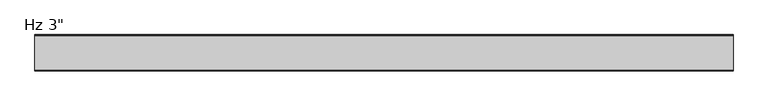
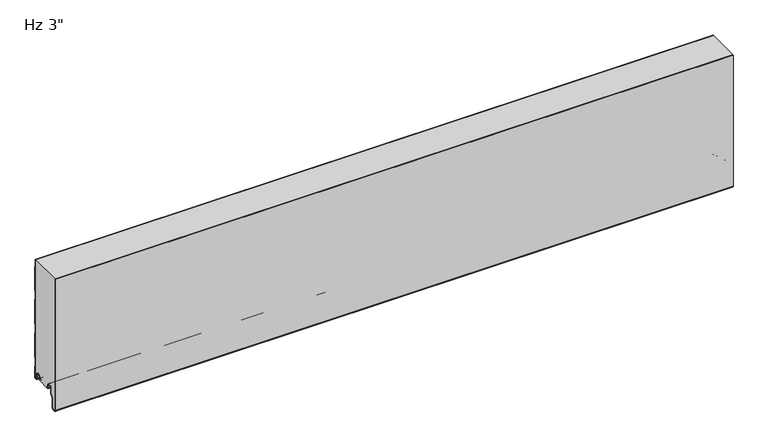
"""IFC4 building model written with IfcOpenShell, lengths in millimetres: plate geometry."""

from ifc_helpers import new_model, si_unit, point, frame, frame_2d, origin, place, context, project, spatial, polyline, circle_curve, trimmed, segment, composite_curve, outline, extrude, source, transform, mapped, element, save
from ifc_brep_helpers import plane_surface, cylinder_surface, revolved_surface, advanced_brep


def plate_f3079791(model_context):
    return source(origin(), model_context, "Body", "SolidModel", [
        advanced_brep(
        [(-730.0, -17.0015159, 2.0313088), (-730.0, -18.0015191, 1.0313116), (-730.0, -19.0015105, 2.0313088), (-730.0, -19.0015105, 6.0315125), (-730.0, -18.0015159, 6.0315125), (-730.0, -18.0015159, 8.7237223), (-730.0, -14.7015202, 12.023718), (-730.0, -10.301529, 12.023718), (-730.0, -7.0015335, 8.7237225), (-730.0, -7.0015335, -1.6962564), (-730.0, -5.2315393, -3.4662506), (-730.0, -0.9999916, -3.4662506), (-730.0, -0.9999916, 21.034026), (-730.0, -2.2002307, 22.4196686), (-730.0, -2.2002307, 41.7948349), (-730.0, -1.0, 43.1804679), (-730.0, -1.0, 97.2338833), (-730.0, -2.2002307, 98.6195162), (-730.0, -2.2002307, 117.9946825), (-730.0, -1.0, 119.3803155), (-730.0, -1.0, 173.4337309), (-730.0, -2.2002307, 174.8193638), (-730.0, -2.2002307, 194.1945301), (-730.0, -1.0, 195.5801631), (-730.0, -1.0, 249.6335785), (-730.0, -2.2002307, 251.0192114), (-730.0, -2.2002307, 266.4), (-730.0, -1.2002307, 266.4), (-730.0, -1.2002307, 251.3920919), (-730.0, -0.3417885, 250.4010442), (-730.0, 0.0, 249.4844273), (-730.0, 0.0, 195.7293142), (-730.0, -0.3417885, 194.8126973), (-730.0, -1.2002307, 193.8216497), (-730.0, -1.2002307, 175.1922443), (-730.0, -0.3417885, 174.2011966), (-730.0, 0.0, 173.2845797), (-730.0, 0.0, 119.5294666), (-730.0, -0.3417885, 118.6128497), (-730.0, -1.2002307, 117.6218021), (-730.0, -1.2002307, 98.9923967), (-730.0, -0.3417885, 98.001349), (-730.0, 0.0, 97.0847321), (-730.0, 0.0, 43.329619), (-730.0, -0.3417885, 42.4130021), (-730.0, -1.2002307, 41.4219545), (-730.0, -1.2002307, 22.7925491), (-730.0, -0.3417885, 21.8015014), (-730.0, 0.0, 20.8847931), (-730.0, 8.4e-06, -3.0662545), (-730.0, -1.3999878, -4.4662506), (-730.0, -5.2315393, -4.4662506), (-730.0, -8.0015335, -1.6962564), (-730.0, -8.0015335, 8.7237225), (-730.0, -10.301529, 11.023718), (-730.0, -14.7015202, 11.023718), (-730.0, -17.0015159, 8.7237223), (730.0, -17.0015159, 2.0313088), (730.0, -17.0015159, 8.7237223), (730.0, -14.7015202, 11.023718), (730.0, -10.301529, 11.023718), (730.0, -8.0015335, 8.7237225), (730.0, -8.0015335, -1.6962564), (730.0, -5.2315393, -4.4662506), (730.0, -1.3999878, -4.4662506), (730.0, 8.4e-06, -3.0662545), (730.0, 8.4e-06, 20.8848845), (730.0, -0.3417885, 21.8015014), (730.0, -1.2002307, 22.7925491), (730.0, -1.2002307, 41.4219545), (730.0, -0.3417885, 42.4130021), (730.0, 0.0, 43.329619), (730.0, 0.0, 97.0847321), (730.0, -0.3417885, 98.001349), (730.0, -1.2002307, 98.9923967), (730.0, -1.2002307, 117.6218021), (730.0, -0.3417885, 118.6128497), (730.0, 0.0, 119.5294666), (730.0, 0.0, 173.2845797), (730.0, -0.3417885, 174.2011966), (730.0, -1.2002307, 175.1922443), (730.0, -1.2002307, 193.8216497), (730.0, -0.3417885, 194.8126973), (730.0, 0.0, 195.7293142), (730.0, 0.0, 249.4844273), (730.0, -0.3417885, 250.4010442), (730.0, -1.2002307, 251.3920919), (730.0, -1.2002307, 266.4), (730.0, -2.2002307, 266.4), (730.0, -2.2002307, 251.0192114), (730.0, -1.0, 249.6335785), (730.0, -1.0, 195.5801631), (730.0, -2.2002307, 194.1945301), (730.0, -2.2002307, 174.8193638), (730.0, -1.0, 173.4337309), (730.0, -1.0, 119.3803155), (730.0, -2.2002307, 117.9946825), (730.0, -2.2002307, 98.6195162), (730.0, -1.0, 97.2338833), (730.0, -1.0, 43.1804679), (730.0, -2.2002307, 41.7948349), (730.0, -2.2002307, 22.4196686), (730.0, -0.9999916, 21.034026), (730.0, -0.9999916, -3.4662506), (730.0, -5.2315393, -3.4662506), (730.0, -7.0015335, -1.6962564), (730.0, -7.0015335, 8.7237225), (730.0, -10.301529, 12.023718), (730.0, -14.7015202, 12.023718), (730.0, -18.0015159, 8.7237223), (730.0, -18.0015159, 6.0315125), (730.0, -19.0015105, 6.0315125), (730.0, -19.0015105, 2.0313088), (730.0, -18.0015192, 1.0313116)],
        [
            (0, 1, circle_curve(frame((-730.0, -18.0015132, 2.0313088), z_axis=(-1.0, 0.0, 0.0), x_axis=(0.0, 0.0, 1.0)), 0.9999973)),
            (1, 2, circle_curve(frame((-730.0, -18.0015133, 2.0313088), z_axis=(-1.0, 0.0, 0.0), x_axis=(0.0, 0.0, 1.0)), 0.9999972)),
            (2, 3),
            (3, 4),
            (4, 5),
            (5, 6, circle_curve(frame((-730.0, -14.7015202, 8.7237223), z_axis=(-1.0, 0.0, 0.0), x_axis=(0.0, 0.0, 1.0)), 3.2999957)),
            (6, 7),
            (7, 8, circle_curve(frame((-730.0, -10.301529, 8.7237225), z_axis=(-1.0, 0.0, 0.0), x_axis=(0.0, 0.0, 1.0)), 3.2999955)),
            (8, 9),
            (9, 10, circle_curve(frame((-730.0, -5.2315393, -1.6962564), z_axis=(1.0, 0.0, 0.0), x_axis=(0.0, 0.0, 1.0)), 1.7699942)),
            (10, 11),
            (11, 12),
            (12, 13),
            (13, 14),
            (14, 15),
            (15, 16),
            (16, 17),
            (17, 18),
            (18, 19),
            (19, 20),
            (20, 21),
            (21, 22),
            (22, 23),
            (23, 24),
            (24, 25),
            (25, 26),
            (26, 27),
            (27, 28),
            (28, 29),
            (29, 30, circle_curve(frame((-730.0, -1.3999972, 249.4844273), z_axis=(-1.0, 0.0, 0.0), x_axis=(0.0, 0.0, 1.0)), 1.3999972)),
            (30, 31),
            (31, 32, circle_curve(frame((-730.0, -1.3999972, 195.7293142), z_axis=(-1.0, 0.0, 0.0), x_axis=(0.0, 0.0, 1.0)), 1.3999972)),
            (32, 33),
            (33, 34),
            (34, 35),
            (35, 36, circle_curve(frame((-730.0, -1.3999972, 173.2845797), z_axis=(-1.0, 0.0, 0.0), x_axis=(0.0, 0.0, 1.0)), 1.3999972)),
            (36, 37),
            (37, 38, circle_curve(frame((-730.0, -1.3999972, 119.5294666), z_axis=(-1.0, 0.0, 0.0), x_axis=(0.0, 0.0, 1.0)), 1.3999972)),
            (38, 39),
            (39, 40),
            (40, 41),
            (41, 42, circle_curve(frame((-730.0, -1.3999972, 97.0847321), z_axis=(-1.0, 0.0, 0.0), x_axis=(0.0, 0.0, 1.0)), 1.3999972)),
            (42, 43),
            (43, 44, circle_curve(frame((-730.0, -1.3999972, 43.329619), z_axis=(-1.0, 0.0, 0.0), x_axis=(0.0, 0.0, 1.0)), 1.3999972)),
            (44, 45),
            (45, 46),
            (46, 47),
            (47, 48, circle_curve(frame((-730.0, -1.3999972, 20.8848845), z_axis=(-1.0, 0.0, 0.0), x_axis=(0.0, 0.0, 1.0)), 1.3999972)),
            (48, 49),
            (49, 50, circle_curve(frame((-730.0, -1.3999878, -3.0662545), z_axis=(-1.0, 0.0, 0.0), x_axis=(0.0, 0.0, 1.0)), 1.3999962)),
            (50, 51),
            (51, 52, circle_curve(frame((-730.0, -5.2315393, -1.6962564), z_axis=(-1.0, 0.0, 0.0), x_axis=(0.0, 0.0, 1.0)), 2.7699942)),
            (52, 53),
            (53, 54, circle_curve(frame((-730.0, -10.301529, 8.7237225), z_axis=(1.0, 0.0, 0.0), x_axis=(0.0, 0.0, 1.0)), 2.2999955)),
            (54, 55),
            (55, 56, circle_curve(frame((-730.0, -14.7015202, 8.7237223), z_axis=(1.0, 0.0, 0.0), x_axis=(0.0, 0.0, 1.0)), 2.2999957)),
            (56, 0),
            (57, 58),
            (58, 59, circle_curve(frame((730.0, -14.7015202, 8.7237223), z_axis=(-1.0, 0.0, 0.0), x_axis=(0.0, 0.0, 1.0)), 2.2999957)),
            (59, 60),
            (60, 61, circle_curve(frame((730.0, -10.301529, 8.7237225), z_axis=(-1.0, 0.0, 0.0), x_axis=(0.0, 0.0, 1.0)), 2.2999955)),
            (61, 62),
            (62, 63, circle_curve(frame((730.0, -5.2315393, -1.6962564), z_axis=(1.0, 0.0, 0.0), x_axis=(0.0, 0.0, 1.0)), 2.7699942)),
            (63, 64),
            (64, 65, circle_curve(frame((730.0, -1.3999878, -3.0662545), z_axis=(1.0, 0.0, 0.0), x_axis=(0.0, 0.0, 1.0)), 1.3999962)),
            (65, 66),
            (66, 67, circle_curve(frame((730.0, -1.3999972, 20.8848845), z_axis=(1.0, 0.0, 0.0), x_axis=(0.0, 0.0, 1.0)), 1.3999972)),
            (67, 68),
            (68, 69),
            (69, 70),
            (70, 71, circle_curve(frame((730.0, -1.3999972, 43.329619), z_axis=(1.0, 0.0, 0.0), x_axis=(0.0, 0.0, 1.0)), 1.3999972)),
            (71, 72),
            (72, 73, circle_curve(frame((730.0, -1.3999972, 97.0847321), z_axis=(1.0, 0.0, 0.0), x_axis=(0.0, 0.0, 1.0)), 1.3999972)),
            (73, 74),
            (74, 75),
            (75, 76),
            (76, 77, circle_curve(frame((730.0, -1.3999972, 119.5294666), z_axis=(1.0, 0.0, 0.0), x_axis=(0.0, 0.0, 1.0)), 1.3999972)),
            (77, 78),
            (78, 79, circle_curve(frame((730.0, -1.3999972, 173.2845797), z_axis=(1.0, 0.0, 0.0), x_axis=(0.0, 0.0, 1.0)), 1.3999972)),
            (79, 80),
            (80, 81),
            (81, 82),
            (82, 83, circle_curve(frame((730.0, -1.3999972, 195.7293142), z_axis=(1.0, 0.0, 0.0), x_axis=(0.0, 0.0, 1.0)), 1.3999972)),
            (83, 84),
            (84, 85, circle_curve(frame((730.0, -1.3999972, 249.4844273), z_axis=(1.0, 0.0, 0.0), x_axis=(0.0, 0.0, 1.0)), 1.3999972)),
            (85, 86),
            (86, 87),
            (87, 88),
            (88, 89),
            (89, 90),
            (90, 91),
            (91, 92),
            (92, 93),
            (93, 94),
            (94, 95),
            (95, 96),
            (96, 97),
            (97, 98),
            (98, 99),
            (99, 100),
            (100, 101),
            (101, 102),
            (102, 103),
            (103, 104),
            (104, 105, circle_curve(frame((730.0, -5.2315393, -1.6962564), z_axis=(-1.0, 0.0, 0.0), x_axis=(0.0, 0.0, 1.0)), 1.7699942)),
            (105, 106),
            (106, 107, circle_curve(frame((730.0, -10.301529, 8.7237225), z_axis=(1.0, 0.0, 0.0), x_axis=(0.0, 0.0, 1.0)), 3.2999955)),
            (107, 108),
            (108, 109, circle_curve(frame((730.0, -14.7015202, 8.7237223), z_axis=(1.0, 0.0, 0.0), x_axis=(0.0, 0.0, 1.0)), 3.2999957)),
            (109, 110),
            (110, 111),
            (111, 112),
            (112, 113, circle_curve(frame((730.0, -18.0015133, 2.0313088), z_axis=(1.0, 0.0, 0.0), x_axis=(0.0, 0.0, 1.0)), 0.9999972)),
            (113, 57, circle_curve(frame((730.0, -18.0015132, 2.0313088), z_axis=(1.0, 0.0, 0.0), x_axis=(0.0, 0.0, 1.0)), 0.9999973)),
            (26, 88),
            (87, 27),
            (56, 58),
            (57, 0),
            (55, 59),
            (54, 60),
            (53, 61),
            (52, 62),
            (51, 63),
            (50, 64),
            (49, 65),
            (48, 66),
            (47, 67),
            (46, 68),
            (45, 69),
            (44, 70),
            (43, 71),
            (42, 72),
            (41, 73),
            (40, 74),
            (39, 75),
            (38, 76),
            (37, 77),
            (36, 78),
            (19, 95),
            (94, 20),
            (18, 96),
            (17, 97),
            (16, 98),
            (15, 99),
            (14, 100),
            (13, 101),
            (12, 102),
            (11, 103),
            (10, 104),
            (9, 105),
            (8, 106),
            (7, 107),
            (6, 108),
            (5, 109),
            (4, 110),
            (3, 111),
            (2, 112),
            (1, 113),
            (35, 79),
            (34, 80),
            (33, 81),
            (32, 82),
            (31, 83),
            (30, 84),
            (29, 85),
            (28, 86),
            (25, 89),
            (24, 90),
            (23, 91),
            (22, 92),
            (21, 93),
        ],
        [
            plane_surface(frame((-730.0, 0.0, 533.4), z_axis=(-1.0, 0.0, 0.0), x_axis=(0.0, 1.0, 0.0))),
            plane_surface(frame((730.0, 0.0, 533.4), z_axis=(1.0, 0.0, 0.0), x_axis=(0.0, 1.0, 0.0))),
            plane_surface(frame((730.0, 10.0, 266.4), z_axis=(0.0, 0.0, 1.0), x_axis=(-1.0, 0.0, 0.0))),
            plane_surface(frame((-730.0, -17.0015159, 2.0313088), z_axis=(0.0, 1.0, 0.0), x_axis=(1.0, 0.0, 0.0))),
            revolved_surface(polyline([(730.0, -14.7015202, 11.023718), (-730.0, -14.7015202, 11.023718)]), (-730.0, -14.7015202, 8.7237223), (1.0, 0.0, 0.0)),
            plane_surface(frame((-730.0, -14.7015202, 11.023718), z_axis=(0.0, 0.0, -1.0), x_axis=(1.0, 0.0, 0.0))),
            revolved_surface(polyline([(730.0, -10.301529, 11.023717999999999), (-730.0, -10.301529, 11.023717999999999)]), (-730.0, -10.301529, 8.7237225), (1.0, 0.0, 0.0)),
            plane_surface(frame((-730.0, -8.0015335, 8.7237225), z_axis=(0.0, -1.0, 0.0), x_axis=(1.0, 0.0, 0.0))),
            cylinder_surface(frame((-730.0, -5.2315393, -1.6962564), z_axis=(-1.0, 0.0, 0.0), x_axis=(0.0, 0.0, 1.0)), 2.7699942),
            plane_surface(frame((-730.0, -5.2315393, -4.4662506), z_axis=(0.0, 0.0, -1.0), x_axis=(1.0, 0.0, 0.0))),
            cylinder_surface(frame((-730.0, -1.3999878, -3.0662545), z_axis=(-1.0, 0.0, 0.0), x_axis=(0.0, 0.0, 1.0)), 1.3999962),
            plane_surface(frame((-730.0, 8.4e-06, -3.0662545), z_axis=(0.0, 1.0, 0.0), x_axis=(1.0, 0.0, 0.0))),
            cylinder_surface(frame((-730.0, -1.3999972, 20.8848845), z_axis=(-1.0, 0.0, 0.0), x_axis=(0.0, 0.0, 1.0)), 1.3999972),
            plane_surface(frame((-730.0, -0.3417885, 21.8015014), z_axis=(0.0, 0.755864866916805, 0.6547276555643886), x_axis=(1.0, 0.0, 0.0))),
            plane_surface(frame((-730.0, -1.2002307, 32.1072518), z_axis=(0.0, 1.0, 0.0), x_axis=(1.0, 0.0, 0.0))),
            plane_surface(frame((-730.0, -1.2002307, 41.4219545), z_axis=(0.0, 0.755864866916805, -0.6547276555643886), x_axis=(1.0, 0.0, 0.0))),
            cylinder_surface(frame((-730.0, -1.3999972, 43.329619), z_axis=(-1.0, 0.0, 0.0), x_axis=(0.0, 0.0, 1.0)), 1.3999972),
            plane_surface(frame((-730.0, 0.0, 43.329619), z_axis=(0.0, 1.0, 0.0), x_axis=(1.0, 0.0, 0.0))),
            cylinder_surface(frame((-730.0, -1.3999972, 97.0847321), z_axis=(-1.0, 0.0, 0.0), x_axis=(0.0, 0.0, 1.0)), 1.3999972),
            plane_surface(frame((-730.0, -0.3417885, 98.001349), z_axis=(0.0, 0.755864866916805, 0.6547276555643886), x_axis=(1.0, 0.0, 0.0))),
            plane_surface(frame((-730.0, -1.2002307, 108.3070994), z_axis=(0.0, 1.0, 0.0), x_axis=(1.0, 0.0, 0.0))),
            plane_surface(frame((-730.0, -1.2002307, 117.6218021), z_axis=(0.0, 0.755864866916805, -0.6547276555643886), x_axis=(1.0, 0.0, 0.0))),
            cylinder_surface(frame((-730.0, -1.3999972, 119.5294666), z_axis=(-1.0, 0.0, 0.0), x_axis=(0.0, 0.0, 1.0)), 1.3999972),
            plane_surface(frame((-730.0, 0.0, 119.5294666), z_axis=(0.0, 1.0, 0.0), x_axis=(1.0, 0.0, 0.0))),
            plane_surface(frame((-730.0, -1.0, 173.4337309), z_axis=(0.0, -1.0, 0.0), x_axis=(1.0, 0.0, 0.0))),
            plane_surface(frame((-730.0, -1.0, 119.3803155), z_axis=(0.0, -0.755864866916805, 0.6547276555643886), x_axis=(1.0, 0.0, 0.0))),
            plane_surface(frame((-730.0, -2.2002307, 117.9946825), z_axis=(0.0, -1.0, 0.0), x_axis=(1.0, 0.0, 0.0))),
            plane_surface(frame((-730.0, -2.2002307, 98.6195162), z_axis=(0.0, -0.755864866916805, -0.6547276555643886), x_axis=(1.0, 0.0, 0.0))),
            plane_surface(frame((-730.0, -1.0, 97.2338833), z_axis=(0.0, -1.0, 0.0), x_axis=(1.0, 0.0, 0.0))),
            plane_surface(frame((-730.0, -1.0, 43.1804679), z_axis=(0.0, -0.755864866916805, 0.6547276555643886), x_axis=(1.0, 0.0, 0.0))),
            plane_surface(frame((-730.0, -2.2002307, 41.7948349), z_axis=(0.0, -1.0, 0.0), x_axis=(1.0, 0.0, 0.0))),
            plane_surface(frame((-730.0, -2.2002307, 22.4196686), z_axis=(0.0, -0.755864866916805, -0.6547276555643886), x_axis=(1.0, 0.0, 0.0))),
            plane_surface(frame((-730.0, -0.9999916, 21.034026), z_axis=(0.0, -1.0, 0.0), x_axis=(1.0, 0.0, 0.0))),
            plane_surface(frame((-730.0, -0.9999916, -3.4662506), z_axis=(0.0, 0.0, 1.0), x_axis=(1.0, 0.0, 0.0))),
            revolved_surface(polyline([(730.0, -5.2315393, 0.07373779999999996), (-730.0, -5.2315393, 0.07373779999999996)]), (-730.0, -5.2315393, -1.6962564), (1.0, 0.0, 0.0)),
            plane_surface(frame((-730.0, -7.0015335, -1.6962564), z_axis=(0.0, 1.0, 0.0), x_axis=(1.0, 0.0, 0.0))),
            cylinder_surface(frame((-730.0, -10.301529, 8.7237225), z_axis=(-1.0, 0.0, 0.0), x_axis=(0.0, 0.0, 1.0)), 3.2999955),
            plane_surface(frame((-730.0, -10.301529, 12.023718), z_axis=(0.0, 0.0, 1.0), x_axis=(1.0, 0.0, 0.0))),
            cylinder_surface(frame((-730.0, -14.7015202, 8.7237223), z_axis=(-1.0, 0.0, 0.0), x_axis=(0.0, 0.0, 1.0)), 3.2999957),
            plane_surface(frame((-730.0, -18.0015159, 8.7237223), z_axis=(0.0, -1.0, 0.0), x_axis=(1.0, 0.0, 0.0))),
            plane_surface(frame((-730.0, -18.0015159, 6.0315125), z_axis=(0.0, 0.0, 1.0), x_axis=(1.0, 0.0, 0.0))),
            plane_surface(frame((-730.0, -19.0015105, 6.0315125), z_axis=(0.0, -1.0, 0.0), x_axis=(1.0, 0.0, 0.0))),
            cylinder_surface(frame((-730.0, -18.0015133, 2.0313088), z_axis=(-1.0, 0.0, 0.0), x_axis=(0.0, 0.0, 1.0)), 0.9999972),
            cylinder_surface(frame((-730.0, -18.0015132, 2.0313088), z_axis=(-1.0, 0.0, 0.0), x_axis=(0.0, 0.0, 1.0)), 0.9999973),
            cylinder_surface(frame((-730.0, -1.3999972, 173.2845797), z_axis=(-1.0, 0.0, 0.0), x_axis=(0.0, 0.0, 1.0)), 1.3999972),
            plane_surface(frame((-730.0, -0.3417885, 174.2011966), z_axis=(0.0, 0.755864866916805, 0.6547276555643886), x_axis=(1.0, 0.0, 0.0))),
            plane_surface(frame((-730.0, -1.2002307, 184.506947), z_axis=(0.0, 1.0, 0.0), x_axis=(1.0, 0.0, 0.0))),
            plane_surface(frame((-730.0, -1.2002307, 193.8216497), z_axis=(0.0, 0.755864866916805, -0.6547276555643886), x_axis=(1.0, 0.0, 0.0))),
            cylinder_surface(frame((-730.0, -1.3999972, 195.7293142), z_axis=(-1.0, 0.0, 0.0), x_axis=(0.0, 0.0, 1.0)), 1.3999972),
            plane_surface(frame((-730.0, 0.0, 195.7293142), z_axis=(0.0, 1.0, 0.0), x_axis=(1.0, 0.0, 0.0))),
            cylinder_surface(frame((-730.0, -1.3999972, 249.4844273), z_axis=(-1.0, 0.0, 0.0), x_axis=(0.0, 0.0, 1.0)), 1.3999972),
            plane_surface(frame((-730.0, -0.3417885, 250.4010442), z_axis=(0.0, 0.755864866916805, 0.6547276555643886), x_axis=(1.0, 0.0, 0.0))),
            plane_surface(frame((-730.0, -1.2002307, 260.7067946), z_axis=(0.0, 1.0, 0.0), x_axis=(1.0, 0.0, 0.0))),
            plane_surface(frame((-730.0, -2.2002307, 270.3943777), z_axis=(0.0, -1.0, 0.0), x_axis=(1.0, 0.0, 0.0))),
            plane_surface(frame((-730.0, -2.2002307, 251.0192114), z_axis=(0.0, -0.755864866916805, -0.6547276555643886), x_axis=(1.0, 0.0, 0.0))),
            plane_surface(frame((-730.0, -1.0, 249.6335785), z_axis=(0.0, -1.0, 0.0), x_axis=(1.0, 0.0, 0.0))),
            plane_surface(frame((-730.0, -1.0, 195.5801631), z_axis=(0.0, -0.755864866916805, 0.6547276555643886), x_axis=(1.0, 0.0, 0.0))),
            plane_surface(frame((-730.0, -2.2002307, 194.1945301), z_axis=(0.0, -1.0, 0.0), x_axis=(1.0, 0.0, 0.0))),
            plane_surface(frame((-730.0, -2.2002307, 174.8193638), z_axis=(0.0, -0.755864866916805, -0.6547276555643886), x_axis=(1.0, 0.0, 0.0))),
        ],
        [
            (0, [[1, 2, 3, 4, 5, 6, 7, 8, 9, 10, 11, 12, 13, 14, 15, 16, 17, 18, 19, 20, 21, 22, 23, 24, 25, 26, 27, 28, 29, 30, 31, 32, 33, 34, 35, 36, 37, 38, 39, 40, 41, 42, 43, 44, 45, 46, 47, 48, 49, 50, 51, 52, 53, 54, 55, 56, 57]]),
            (1, [[58, 59, 60, 61, 62, 63, 64, 65, 66, 67, 68, 69, 70, 71, 72, 73, 74, 75, 76, 77, 78, 79, 80, 81, 82, 83, 84, 85, 86, 87, 88, 89, 90, 91, 92, 93, 94, 95, 96, 97, 98, 99, 100, 101, 102, 103, 104, 105, 106, 107, 108, 109, 110, 111, 112, 113, 114]]),
            (2, [[115, -88, 116, -27]]),
            (3, [[117, -58, 118, -57]]),
            (4, [[119, -59, -117, -56]]),
            (5, [[120, -60, -119, -55]]),
            (6, [[121, -61, -120, -54]]),
            (7, [[122, -62, -121, -53]]),
            (8, [[123, -63, -122, -52]]),
            (9, [[124, -64, -123, -51]]),
            (10, [[125, -65, -124, -50]]),
            (11, [[126, -66, -125, -49]]),
            (12, [[127, -67, -126, -48]]),
            (13, [[128, -68, -127, -47]]),
            (14, [[129, -69, -128, -46]]),
            (15, [[130, -70, -129, -45]]),
            (16, [[131, -71, -130, -44]]),
            (17, [[132, -72, -131, -43]]),
            (18, [[133, -73, -132, -42]]),
            (19, [[134, -74, -133, -41]]),
            (20, [[135, -75, -134, -40]]),
            (21, [[136, -76, -135, -39]]),
            (22, [[137, -77, -136, -38]]),
            (23, [[138, -78, -137, -37]]),
            (24, [[139, -95, 140, -20]]),
            (25, [[141, -96, -139, -19]]),
            (26, [[142, -97, -141, -18]]),
            (27, [[143, -98, -142, -17]]),
            (28, [[144, -99, -143, -16]]),
            (29, [[145, -100, -144, -15]]),
            (30, [[146, -101, -145, -14]]),
            (31, [[147, -102, -146, -13]]),
            (32, [[148, -103, -147, -12]]),
            (33, [[149, -104, -148, -11]]),
            (34, [[150, -105, -149, -10]]),
            (35, [[151, -106, -150, -9]]),
            (36, [[152, -107, -151, -8]]),
            (37, [[153, -108, -152, -7]]),
            (38, [[154, -109, -153, -6]]),
            (39, [[155, -110, -154, -5]]),
            (40, [[156, -111, -155, -4]]),
            (41, [[157, -112, -156, -3]]),
            (42, [[158, -113, -157, -2]]),
            (43, [[-118, -114, -158, -1]]),
            (44, [[159, -79, -138, -36]]),
            (45, [[160, -80, -159, -35]]),
            (46, [[161, -81, -160, -34]]),
            (47, [[162, -82, -161, -33]]),
            (48, [[163, -83, -162, -32]]),
            (49, [[164, -84, -163, -31]]),
            (50, [[165, -85, -164, -30]]),
            (51, [[166, -86, -165, -29]]),
            (52, [[-28, -116, -87, -166]]),
            (53, [[-89, -115, -26, 167]]),
            (54, [[168, -90, -167, -25]]),
            (55, [[169, -91, -168, -24]]),
            (56, [[170, -92, -169, -23]]),
            (57, [[171, -93, -170, -22]]),
            (58, [[-140, -94, -171, -21]]),
        ],
    ),
        extrude(outline(composite_curve([segment(trimmed(circle_curve(frame_2d((-72.6297607, -32.4521176)), 3.5702393), [point((-72.3184903, -36.008762))], [point((-76.2, -32.4521176))], False, "CARTESIAN"), True, "CONTINUOUS"), segment(polyline([(-76.2, -32.4521176), (-76.2, 266.4), (-75.1993606, 266.4), (-75.1993606, -32.509446)]), True, "CONTINUOUS"), segment(trimmed(circle_curve(frame_2d((-72.6297607, -32.4521176)), 2.5702393), [point((-75.1993606, -32.509446))], [point((-72.4056751, -35.0125699))], True, "CARTESIAN"), True, "CONTINUOUS"), segment(polyline([(-72.4056751, -35.0125699), (-67.4238542, -34.5765709)]), True, "CONTINUOUS"), segment(trimmed(circle_curve(frame_2d((-67.9052448, -31.9198392)), 2.6999926), [point((-67.4238542, -34.5765709))], [point((-65.2052522, -31.9198392))], True, "CARTESIAN"), True, "CONTINUOUS"), segment(polyline([(-65.2052522, -31.9198392), (-65.2052522, -9.8247096), (-59.7031811, -4.3226385)]), True, "CONTINUOUS"), segment(trimmed(circle_curve(frame_2d((-60.9052588, -3.1205608)), 1.6999946), [point((-59.7031811, -4.3226385))], [point((-59.2052642, -3.1205608))], True, "CARTESIAN"), True, "CONTINUOUS"), segment(polyline([(-59.2052642, -3.1205608), (-59.2052642, 8.6903283)]), True, "CONTINUOUS"), segment(trimmed(circle_curve(frame_2d((-55.8552689, 8.6903283)), 3.3499953), [point((-59.2052642, 8.6903283))], [point((-55.8552689, 12.0403236))], False, "CARTESIAN"), True, "CONTINUOUS"), segment(polyline([(-55.8552689, 12.0403236), (-51.4552777, 12.0403236)]), True, "CONTINUOUS"), segment(trimmed(circle_curve(frame_2d((-51.4552777, 8.6903283)), 3.3499953), [point((-51.4552777, 12.0403236))], [point((-48.1052824, 8.6903283))], False, "CARTESIAN"), True, "CONTINUOUS"), segment(polyline([(-48.1052824, 8.6903283), (-48.1052824, 5.9912173), (-46.7068035, 5.9912173), (-46.7068035, 2.2328239)]), True, "CONTINUOUS"), segment(trimmed(circle_curve(frame_2d((-47.9068002, 2.2313092)), 1.1999976), [point((-46.7068035, 2.2328239))], [point((-47.8762782, 1.0316999))], False, "CARTESIAN"), True, "CONTINUOUS"), segment(trimmed(circle_curve(frame_2d((-47.9068002, 2.2313092)), 1.1999976), [point((-47.8762782, 1.0316999))], [point((-49.1052824, 2.1710221))], False, "CARTESIAN"), True, "CONTINUOUS"), segment(polyline([(-49.1052824, 2.1710221), (-49.1052824, 8.6903283)]), True, "CONTINUOUS"), segment(trimmed(circle_curve(frame_2d((-51.4552777, 8.6903283)), 2.3499953), [point((-49.1052824, 8.6903283))], [point((-51.4552777, 11.0403236))], True, "CARTESIAN"), True, "CONTINUOUS"), segment(polyline([(-51.4552777, 11.0403236), (-55.8552689, 11.0403236)]), True, "CONTINUOUS"), segment(trimmed(circle_curve(frame_2d((-55.8552689, 8.6903283)), 2.3499953), [point((-55.8552689, 11.0403236))], [point((-58.2052642, 8.6903283))], True, "CARTESIAN"), True, "CONTINUOUS"), segment(polyline([(-58.2052642, 8.6903283), (-58.2052642, -3.1205608)]), True, "CONTINUOUS"), segment(trimmed(circle_curve(frame_2d((-60.9052588, -3.1205608)), 2.6999946), [point((-58.2052642, -3.1205608))], [point((-58.9960743, -5.0297453))], False, "CARTESIAN"), True, "CONTINUOUS"), segment(polyline([(-58.9960743, -5.0297453), (-63.8244918, -9.8581627)]), True, "CONTINUOUS"), segment(trimmed(circle_curve(frame_2d((-62.9052548, -10.7773997)), 1.2999974), [point((-63.8244918, -9.8581627))], [point((-64.2052522, -10.7773997))], True, "CARTESIAN"), True, "CONTINUOUS"), segment(polyline([(-64.2052522, -10.7773997), (-64.2052522, -31.9198392)]), True, "CONTINUOUS"), segment(trimmed(circle_curve(frame_2d((-67.9052448, -31.9198392)), 3.6999926), [point((-64.2052522, -31.9198392))], [point((-67.2944437, -35.5690675))], False, "CARTESIAN"), True, "CONTINUOUS"), segment(polyline([(-67.2944437, -35.5690675), (-72.3184903, -36.008762)]), True, "CONTINUOUS")], self_intersect=False)), frame((-730.0, 0.0, 0.0), z_axis=(1.0, 0.0, 0.0), x_axis=(0.0, 1.0, 0.0)), (0.0, 0.0, 1.0), 1460.0),
        advanced_brep(
        [(-730.0, -47.870875, 1.0316999), (-730.0, -46.7014003, 2.2328239), (-730.0, -46.7014003, 5.9912173), (-730.0, -48.0998791, 5.9912173), (-730.0, -48.0998791, 8.6903283), (-730.0, -51.4498744, 12.0403236), (-730.0, -55.8498656, 12.0403236), (-730.0, -59.1998609, 8.6903283), (-730.0, -59.1998609, -3.1205608), (-730.0, -59.6977778, -4.3226385), (-730.0, -65.1998489, -9.8247096), (-730.0, -65.1998489, -31.9198392), (-730.0, -67.4184509, -34.5765709), (-730.0, -72.4002718, -35.0125699), (-730.0, -75.1945967, -32.4521176), (-730.0, -75.2, 266.4), (-730.0, -2.2002307, 266.4), (-730.0, -2.2002307, 251.0192115), (-730.0, -1.0, 249.6335785), (-730.0, -1.0, 195.5801631), (-730.0, -2.2002307, 194.1945302), (-730.0, -2.2002307, 174.8193639), (-730.0, -1.0, 173.4337309), (-730.0, -1.0, 119.3803155), (-730.0, -2.2002307, 117.9946826), (-730.0, -2.2002307, 98.6195163), (-730.0, -1.0, 97.2338833), (-730.0, -1.0, 43.1804679), (-730.0, -2.2002307, 41.794835), (-730.0, -2.2002307, 22.4196687), (-730.0, -0.9999916, 21.034026), (-730.0, -0.9999916, -3.4662506), (-730.0, -5.2315389, -3.4662506), (-730.0, -7.0015331, -1.6962564), (-730.0, -7.0015331, 8.7237222), (-730.0, -10.301529, 12.023718), (-730.0, -14.7015202, 12.023718), (-730.0, -18.0015159, 8.7237223), (-730.0, -18.0015159, 6.0315125), (-730.0, -19.0015105, 6.0315125), (-730.0, -19.0015105, 2.0313089), (-730.0, -18.0015192, 1.0313117), (-730.0, -19.0328308, 0.0), (-730.0, -46.8391751, 0.0), (730.0, -47.870875, 1.0316999), (730.0, -46.8391751, 0.0), (730.0, -19.0328308, 0.0), (730.0, -18.0015192, 1.0313117), (730.0, -19.0015105, 2.0313089), (730.0, -19.0015105, 6.0315125), (730.0, -18.0015159, 6.0315125), (730.0, -18.0015159, 8.7237223), (730.0, -14.7015202, 12.023718), (730.0, -10.301529, 12.023718), (730.0, -7.0015331, 8.7237222), (730.0, -7.0015331, -1.6962564), (730.0, -5.2315389, -3.4662506), (730.0, -0.9999916, -3.4662506), (730.0, -0.9999916, 21.034026), (730.0, -2.2002307, 22.4196687), (730.0, -2.2002307, 41.794835), (730.0, -1.0, 43.1804679), (730.0, -1.0, 97.2338833), (730.0, -2.2002307, 98.6195163), (730.0, -2.2002307, 117.9946826), (730.0, -1.0, 119.3803155), (730.0, -1.0, 173.4337309), (730.0, -2.2002307, 174.8193639), (730.0, -2.2002307, 194.1945302), (730.0, -1.0, 195.5801631), (730.0, -1.0, 249.6335785), (730.0, -2.2002307, 251.0192115), (730.0, -2.2002307, 266.4), (730.0, -75.2, 266.4), (730.0, -75.2, -32.4521176), (730.0, -72.4002718, -35.0125699), (730.0, -67.4184509, -34.5765709), (730.0, -65.1998489, -31.9198392), (730.0, -65.1998489, -9.8247096), (730.0, -59.6977778, -4.3226385), (730.0, -59.1998609, -3.1205608), (730.0, -59.1998609, 8.6903283), (730.0, -55.8498656, 12.0403236), (730.0, -51.4498744, 12.0403236), (730.0, -48.0998791, 8.6903283), (730.0, -48.0998791, 5.9912173), (730.0, -46.7014003, 5.9912173), (730.0, -46.7014003, 2.2328239)],
        [
            (0, 1, circle_curve(frame((-730.0, -47.9013969, 2.2313092), z_axis=(1.0, 0.0, 0.0), x_axis=(0.0, 0.0, -1.0)), 1.1999976)),
            (1, 2),
            (2, 3),
            (3, 4),
            (4, 5, circle_curve(frame((-730.0, -51.4498744, 8.6903283), z_axis=(1.0, 0.0, 0.0), x_axis=(0.0, 0.0, -1.0)), 3.3499953)),
            (5, 6),
            (6, 7, circle_curve(frame((-730.0, -55.8498656, 8.6903283), z_axis=(1.0, 0.0, 0.0), x_axis=(0.0, 0.0, -1.0)), 3.3499953)),
            (7, 8),
            (8, 9, circle_curve(frame((-730.0, -60.8998555, -3.1205608), z_axis=(-1.0, 0.0, 0.0), x_axis=(0.0, 0.0, -1.0)), 1.6999946)),
            (9, 10),
            (10, 11),
            (11, 12, circle_curve(frame((-730.0, -67.8998415, -31.9198392), z_axis=(-1.0, 0.0, 0.0), x_axis=(0.0, 0.0, -1.0)), 2.6999926)),
            (12, 13),
            (13, 14, circle_curve(frame((-730.0, -72.6243575, -32.4521176), z_axis=(-1.0, 0.0, 0.0), x_axis=(0.0, 0.0, -1.0)), 2.5702393)),
            (14, 15),
            (15, 16),
            (16, 17),
            (17, 18),
            (18, 19),
            (19, 20),
            (20, 21),
            (21, 22),
            (22, 23),
            (23, 24),
            (24, 25),
            (25, 26),
            (26, 27),
            (27, 28),
            (28, 29),
            (29, 30),
            (30, 31),
            (31, 32),
            (32, 33, circle_curve(frame((-730.0, -5.2315389, -1.6962564), z_axis=(-1.0, 0.0, 0.0), x_axis=(0.0, 0.0, -1.0)), 1.7699942)),
            (33, 34),
            (34, 35, circle_curve(frame((-730.0, -10.301529, 8.7237222), z_axis=(1.0, 0.0, 0.0), x_axis=(0.0, 0.0, -1.0)), 3.2999959)),
            (35, 36),
            (36, 37, circle_curve(frame((-730.0, -14.7015202, 8.7237223), z_axis=(1.0, 0.0, 0.0), x_axis=(0.0, 0.0, -1.0)), 3.2999957)),
            (37, 38),
            (38, 39),
            (39, 40),
            (40, 41, circle_curve(frame((-730.0, -18.0015133, 2.0313089), z_axis=(1.0, 0.0, 0.0), x_axis=(0.0, 0.0, -1.0)), 0.9999972)),
            (41, 42),
            (42, 43),
            (43, 0),
            (44, 45),
            (45, 46),
            (46, 47),
            (47, 48, circle_curve(frame((730.0, -18.0015133, 2.0313089), z_axis=(-1.0, 0.0, 0.0), x_axis=(0.0, 0.0, -1.0)), 0.9999972)),
            (48, 49),
            (49, 50),
            (50, 51),
            (51, 52, circle_curve(frame((730.0, -14.7015202, 8.7237223), z_axis=(-1.0, 0.0, 0.0), x_axis=(0.0, 0.0, -1.0)), 3.2999957)),
            (52, 53),
            (53, 54, circle_curve(frame((730.0, -10.301529, 8.7237222), z_axis=(-1.0, 0.0, 0.0), x_axis=(0.0, 0.0, -1.0)), 3.2999959)),
            (54, 55),
            (55, 56, circle_curve(frame((730.0, -5.2315389, -1.6962564), z_axis=(1.0, 0.0, 0.0), x_axis=(0.0, 0.0, -1.0)), 1.7699942)),
            (56, 57),
            (57, 58),
            (58, 59),
            (59, 60),
            (60, 61),
            (61, 62),
            (62, 63),
            (63, 64),
            (64, 65),
            (65, 66),
            (66, 67),
            (67, 68),
            (68, 69),
            (69, 70),
            (70, 71),
            (71, 72),
            (72, 73),
            (73, 74),
            (74, 75, circle_curve(frame((730.0, -72.6243575, -32.4521176), z_axis=(1.0, 0.0, 0.0), x_axis=(0.0, 0.0, -1.0)), 2.5702393)),
            (75, 76),
            (76, 77, circle_curve(frame((730.0, -67.8998415, -31.9198392), z_axis=(1.0, 0.0, 0.0), x_axis=(0.0, 0.0, -1.0)), 2.6999926)),
            (77, 78),
            (78, 79),
            (79, 80, circle_curve(frame((730.0, -60.8998555, -3.1205608), z_axis=(1.0, 0.0, 0.0), x_axis=(0.0, 0.0, -1.0)), 1.6999946)),
            (80, 81),
            (81, 82, circle_curve(frame((730.0, -55.8498656, 8.6903283), z_axis=(-1.0, 0.0, 0.0), x_axis=(0.0, 0.0, -1.0)), 3.3499953)),
            (82, 83),
            (83, 84, circle_curve(frame((730.0, -51.4498744, 8.6903283), z_axis=(-1.0, 0.0, 0.0), x_axis=(0.0, 0.0, -1.0)), 3.3499953)),
            (84, 85),
            (85, 86),
            (86, 87),
            (87, 44, circle_curve(frame((730.0, -47.9013969, 2.2313092), z_axis=(-1.0, 0.0, 0.0), x_axis=(0.0, 0.0, -1.0)), 1.1999976)),
            (43, 45),
            (44, 0),
            (42, 46),
            (73, 15),
            (14, 74),
            (13, 75),
            (12, 76),
            (11, 77),
            (10, 78),
            (9, 79),
            (8, 80),
            (7, 81),
            (6, 82),
            (5, 83),
            (4, 84),
            (3, 85),
            (2, 86),
            (1, 87),
            (72, 16),
            (41, 47),
            (40, 48),
            (39, 49),
            (38, 50),
            (37, 51),
            (36, 52),
            (35, 53),
            (34, 54),
            (33, 55),
            (32, 56),
            (31, 57),
            (30, 58),
            (29, 59),
            (28, 60),
            (27, 61),
            (26, 62),
            (25, 63),
            (24, 64),
            (23, 65),
            (22, 66),
            (21, 67),
            (20, 68),
            (19, 69),
            (18, 70),
            (17, 71),
        ],
        [
            plane_surface(frame((-730.0, -75.2, 533.4), z_axis=(-1.0, 0.0, 0.0), x_axis=(0.0, -1.0, 0.0))),
            plane_surface(frame((730.0, -75.2, 533.4), z_axis=(1.0, 0.0, 0.0), x_axis=(0.0, -1.0, 0.0))),
            plane_surface(frame((-730.0, -47.870875, 1.0316999), z_axis=(0.0, -0.7071067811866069, -0.7071067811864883), x_axis=(1.0, 0.0, 0.0))),
            plane_surface(frame((-730.0, -46.8391751, 0.0), z_axis=(0.0, 0.0, -1.0), x_axis=(1.0, 0.0, 0.0))),
            plane_surface(frame((-730.0, -75.2, 1024.665622), z_axis=(0.0, -1.0, 0.0), x_axis=(1.0, 0.0, 0.0))),
            cylinder_surface(frame((-730.0, -72.6243575, -32.4521176), z_axis=(-1.0, 0.0, 0.0), x_axis=(0.0, 0.0, -1.0)), 2.5702393),
            plane_surface(frame((-730.0, -72.4002718, -35.0125699), z_axis=(0.0, 0.08718474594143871, -0.9961921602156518), x_axis=(1.0, 0.0, 0.0))),
            cylinder_surface(frame((-730.0, -67.8998415, -31.9198392), z_axis=(-1.0, 0.0, 0.0), x_axis=(0.0, 0.0, -1.0)), 2.6999926),
            plane_surface(frame((-730.0, -65.1998489, -31.9198392), z_axis=(0.0, 1.0, 0.0), x_axis=(1.0, 0.0, 0.0))),
            plane_surface(frame((-730.0, -65.1998489, -9.8247096), z_axis=(0.0, 0.7071067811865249, -0.7071067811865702), x_axis=(1.0, 0.0, 0.0))),
            cylinder_surface(frame((-730.0, -60.8998555, -3.1205608), z_axis=(-1.0, 0.0, 0.0), x_axis=(0.0, 0.0, -1.0)), 1.6999946),
            plane_surface(frame((-730.0, -59.1998609, -3.1205608), z_axis=(0.0, 1.0, 0.0), x_axis=(1.0, 0.0, 0.0))),
            revolved_surface(polyline([(730.0, -55.8498656, 5.340332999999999), (-730.0, -55.8498656, 5.340332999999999)]), (-730.0, -55.8498656, 8.6903283), (1.0, 0.0, 0.0)),
            plane_surface(frame((-730.0, -55.8498656, 12.0403236), z_axis=(0.0, 0.0, -1.0), x_axis=(1.0, 0.0, 0.0))),
            revolved_surface(polyline([(730.0, -51.4498744, 5.340332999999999), (-730.0, -51.4498744, 5.340332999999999)]), (-730.0, -51.4498744, 8.6903283), (1.0, 0.0, 0.0)),
            plane_surface(frame((-730.0, -48.0998791, 8.6903283), z_axis=(0.0, -1.0, 0.0), x_axis=(1.0, 0.0, 0.0))),
            plane_surface(frame((-730.0, -48.0998791, 5.9912173), z_axis=(0.0, 0.0, -1.0), x_axis=(1.0, 0.0, 0.0))),
            plane_surface(frame((-730.0, -46.7014003, 5.9912173), z_axis=(0.0, -1.0, 0.0), x_axis=(1.0, 0.0, 0.0))),
            revolved_surface(polyline([(730.0, -47.9013969, 1.0313116), (-730.0, -47.9013969, 1.0313116)]), (-730.0, -47.9013969, 2.2313092), (1.0, 0.0, 0.0)),
            plane_surface(frame((730.0, 10.0, 266.4), z_axis=(0.0, 0.0, 1.0), x_axis=(-1.0, 0.0, 0.0))),
            plane_surface(frame((-730.0, -19.0328308, 0.0), z_axis=(0.0, 0.7071067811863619, -0.7071067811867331), x_axis=(1.0, 0.0, 0.0))),
            revolved_surface(polyline([(730.0, -18.0015133, 1.0313116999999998), (-730.0, -18.0015133, 1.0313116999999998)]), (-730.0, -18.0015133, 2.0313089), (1.0, 0.0, 0.0)),
            plane_surface(frame((-730.0, -19.0015105, 2.0313089), z_axis=(0.0, 1.0, 0.0), x_axis=(1.0, 0.0, 0.0))),
            plane_surface(frame((-730.0, -19.0015105, 6.0315125), z_axis=(0.0, 0.0, -1.0), x_axis=(1.0, 0.0, 0.0))),
            plane_surface(frame((-730.0, -18.0015159, 6.0315125), z_axis=(0.0, 1.0, 0.0), x_axis=(1.0, 0.0, 0.0))),
            revolved_surface(polyline([(730.0, -14.7015202, 5.4237266), (-730.0, -14.7015202, 5.4237266)]), (-730.0, -14.7015202, 8.7237223), (1.0, 0.0, 0.0)),
            plane_surface(frame((-730.0, -14.7015202, 12.023718), z_axis=(0.0, 0.0, -1.0), x_axis=(1.0, 0.0, 0.0))),
            revolved_surface(polyline([(730.0, -10.301529, 5.423726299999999), (-730.0, -10.301529, 5.423726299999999)]), (-730.0, -10.301529, 8.7237222), (1.0, 0.0, 0.0)),
            plane_surface(frame((-730.0, -7.0015331, 8.7237222), z_axis=(0.0, -1.0, 0.0), x_axis=(1.0, 0.0, 0.0))),
            cylinder_surface(frame((-730.0, -5.2315389, -1.6962564), z_axis=(-1.0, 0.0, 0.0), x_axis=(0.0, 0.0, -1.0)), 1.7699942),
            plane_surface(frame((-730.0, -5.2315389, -3.4662506), z_axis=(0.0, 0.0, -1.0), x_axis=(1.0, 0.0, 0.0))),
            plane_surface(frame((-730.0, -0.9999916, -3.4662506), z_axis=(0.0, 1.0, 0.0), x_axis=(1.0, 0.0, 0.0))),
            plane_surface(frame((-730.0, -0.9999916, 21.034026), z_axis=(0.0, 0.7558648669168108, 0.6547276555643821), x_axis=(1.0, 0.0, 0.0))),
            plane_surface(frame((-730.0, -2.2002307, 22.4196687), z_axis=(0.0, 1.0, 0.0), x_axis=(1.0, 0.0, 0.0))),
            plane_surface(frame((-730.0, -2.2002307, 41.794835), z_axis=(0.0, 0.7558648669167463, -0.6547276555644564), x_axis=(1.0, 0.0, 0.0))),
            plane_surface(frame((-730.0, -1.0, 43.1804679), z_axis=(0.0, 1.0, 0.0), x_axis=(1.0, 0.0, 0.0))),
            plane_surface(frame((-730.0, -1.0, 97.2338833), z_axis=(0.0, 0.7558648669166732, 0.6547276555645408), x_axis=(1.0, 0.0, 0.0))),
            plane_surface(frame((-730.0, -2.2002307, 98.6195163), z_axis=(0.0, 1.0, 0.0), x_axis=(1.0, 0.0, 0.0))),
            plane_surface(frame((-730.0, -2.2002307, 117.9946826), z_axis=(0.0, 0.7558648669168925, -0.6547276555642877), x_axis=(1.0, 0.0, 0.0))),
            plane_surface(frame((-730.0, -1.0, 119.3803155), z_axis=(0.0, 1.0, 0.0), x_axis=(1.0, 0.0, 0.0))),
            plane_surface(frame((-730.0, -1.0, 173.4337309), z_axis=(0.0, 0.7558648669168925, 0.6547276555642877), x_axis=(1.0, 0.0, 0.0))),
            plane_surface(frame((-730.0, -2.2002307, 174.8193639), z_axis=(0.0, 1.0, 0.0), x_axis=(1.0, 0.0, 0.0))),
            plane_surface(frame((-730.0, -2.2002307, 194.1945302), z_axis=(0.0, 0.7558648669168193, -0.6547276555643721), x_axis=(1.0, 0.0, 0.0))),
            plane_surface(frame((-730.0, -1.0, 195.5801631), z_axis=(0.0, 1.0, 0.0), x_axis=(1.0, 0.0, 0.0))),
            plane_surface(frame((-730.0, -1.0, 249.6335785), z_axis=(0.0, 0.7558648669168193, 0.6547276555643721), x_axis=(1.0, 0.0, 0.0))),
            plane_surface(frame((-730.0, -2.2002307, 251.0192115), z_axis=(0.0, 1.0, 0.0), x_axis=(1.0, 0.0, 0.0))),
        ],
        [
            (0, [[1, 2, 3, 4, 5, 6, 7, 8, 9, 10, 11, 12, 13, 14, 15, 16, 17, 18, 19, 20, 21, 22, 23, 24, 25, 26, 27, 28, 29, 30, 31, 32, 33, 34, 35, 36, 37, 38, 39, 40, 41, 42, 43, 44]]),
            (1, [[45, 46, 47, 48, 49, 50, 51, 52, 53, 54, 55, 56, 57, 58, 59, 60, 61, 62, 63, 64, 65, 66, 67, 68, 69, 70, 71, 72, 73, 74, 75, 76, 77, 78, 79, 80, 81, 82, 83, 84, 85, 86, 87, 88]]),
            (2, [[89, -45, 90, -44]]),
            (3, [[-43, 91, -46, -89]]),
            (4, [[-74, 92, -15, 93]]),
            (5, [[94, -75, -93, -14]]),
            (6, [[95, -76, -94, -13]]),
            (7, [[96, -77, -95, -12]]),
            (8, [[97, -78, -96, -11]]),
            (9, [[98, -79, -97, -10]]),
            (10, [[99, -80, -98, -9]]),
            (11, [[100, -81, -99, -8]]),
            (12, [[101, -82, -100, -7]]),
            (13, [[102, -83, -101, -6]]),
            (14, [[103, -84, -102, -5]]),
            (15, [[104, -85, -103, -4]]),
            (16, [[105, -86, -104, -3]]),
            (17, [[106, -87, -105, -2]]),
            (18, [[-90, -88, -106, -1]]),
            (19, [[-92, -73, 107, -16]]),
            (20, [[108, -47, -91, -42]]),
            (21, [[109, -48, -108, -41]]),
            (22, [[110, -49, -109, -40]]),
            (23, [[111, -50, -110, -39]]),
            (24, [[112, -51, -111, -38]]),
            (25, [[113, -52, -112, -37]]),
            (26, [[114, -53, -113, -36]]),
            (27, [[115, -54, -114, -35]]),
            (28, [[116, -55, -115, -34]]),
            (29, [[117, -56, -116, -33]]),
            (30, [[118, -57, -117, -32]]),
            (31, [[119, -58, -118, -31]]),
            (32, [[120, -59, -119, -30]]),
            (33, [[121, -60, -120, -29]]),
            (34, [[122, -61, -121, -28]]),
            (35, [[123, -62, -122, -27]]),
            (36, [[124, -63, -123, -26]]),
            (37, [[125, -64, -124, -25]]),
            (38, [[126, -65, -125, -24]]),
            (39, [[127, -66, -126, -23]]),
            (40, [[128, -67, -127, -22]]),
            (41, [[129, -68, -128, -21]]),
            (42, [[130, -69, -129, -20]]),
            (43, [[131, -70, -130, -19]]),
            (44, [[132, -71, -131, -18]]),
            (45, [[-17, -107, -72, -132]]),
        ],
    ),
    ])


if __name__ == "__main__":
    model = new_model("IFC4")
    model_context = context("Model", 3, world=origin())
    ifc_project = project(units=[si_unit("LENGTHUNIT", "METRE", prefix="MILLI")], contexts=[model_context])
    site = spatial("IfcSite", under=ifc_project)
    building = spatial("IfcBuilding", under=site)
    placement = place(None, origin())
    plate_shape = plate_f3079791(model_context)
    element("IfcPlate", 1, ObjectType="KIP-42-S-O-KP-R19-CP-Hz-FL_SL : Hz 3\"", at=placement, inside=building, context=model_context, shape_type="MappedRepresentation", body=[
        mapped(plate_shape, transform((0.0, 0.0, 0.0), x_axis=(1.0, 0.0, 0.0), y_axis=(0.0, 1.0, 0.0), z_axis=(0.0, 0.0, 1.0))),
    ])
    save(model, "model.ifc")
